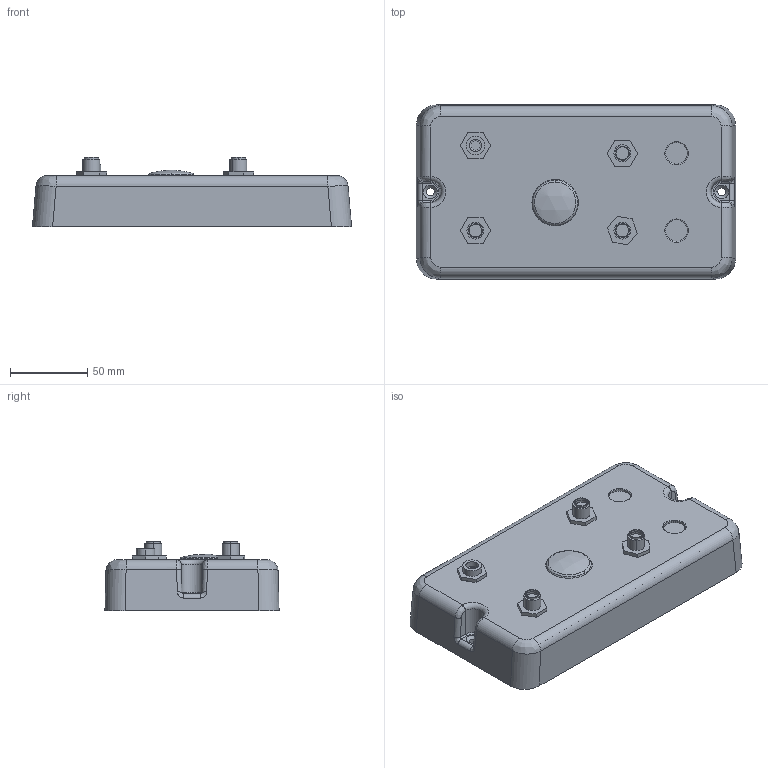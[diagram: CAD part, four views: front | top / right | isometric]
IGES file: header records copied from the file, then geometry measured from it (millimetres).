
Global section: file name: No Iges File Name specified; native system: Autodesk Inventor 2011; preprocessor: AutoDesk Inventor Iges Exporter R2011; author: Trivella; date: 20120413.113730; units: millimetre
Bounding box: 206.27 x 112.57 x 45 mm (x, y, z)
Volume: 173858.1 mm3; surface area: 176604.9 mm2
Topology: 25 solids, 25 shells, 541 faces, 1315 edges, 831 vertices
Faces by surface type: plane 247, revolution 95, bspline 88, cylinder 58, torus 42, cone 10, sphere 1
